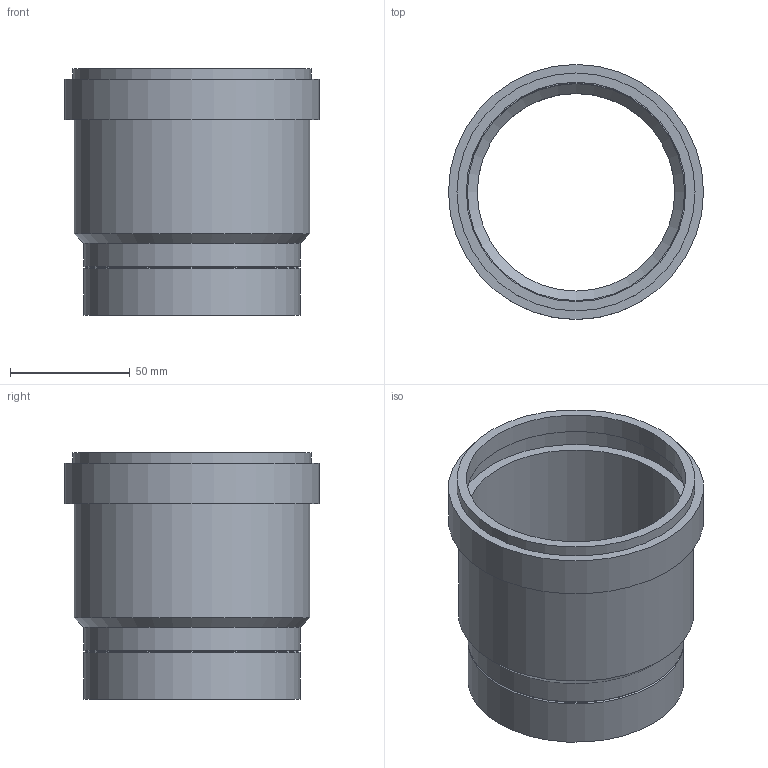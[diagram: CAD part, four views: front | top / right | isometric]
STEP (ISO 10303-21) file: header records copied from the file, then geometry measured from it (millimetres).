
FILE_DESCRIPTION(/* description */ (''),/* implementation_level */ '2;1');
FILE_NAME(/* name */ 'C:\Geberit-Teile\Export 2019\360.779.16.3\stp\366779.stp',/* time_stamp */ '2019-06-06T10:45:24+02:00',/* author */ ('JANAN'),/* organization */ (''),/* preprocessor_version */ 'ST-DEVELOPER v16.13',/* originating_system */ 'Autodesk Inventor 2018',/* authorisation */ '');
FILE_SCHEMA (('AUTOMOTIVE_DESIGN { 1 0 10303 214 3 1 1 }'));
Length unit declared in the file: millimetre
Products named in the file (1): StMuf mit LipDicht PE-HD d90 L10.3
Bounding box: 106.5 x 106.5 x 103 mm (x, y, z)
Volume: 128380.2 mm3; surface area: 68216.2 mm2
Topology: 1 solids, 1 shells, 19 faces, 34 edges, 21 vertices
Faces by surface type: cylinder 9, plane 6, cone 4
Full cylindrical faces by diameter (mm): 82.5 x1, 90.3 x2, 90.7 x1, 91.6 x1, 98.5 x1, 98.7 x1, 99.4 x1, 106.5 x1
Entity records: 446 total; most frequent: DIRECTION 78, CARTESIAN_POINT 58, AXIS2_PLACEMENT_3D 39, EDGE_LOOP 38, ORIENTED_EDGE 38, STYLED_ITEM 20, FACE_BOUND 19, FACE_OUTER_BOUND 19
